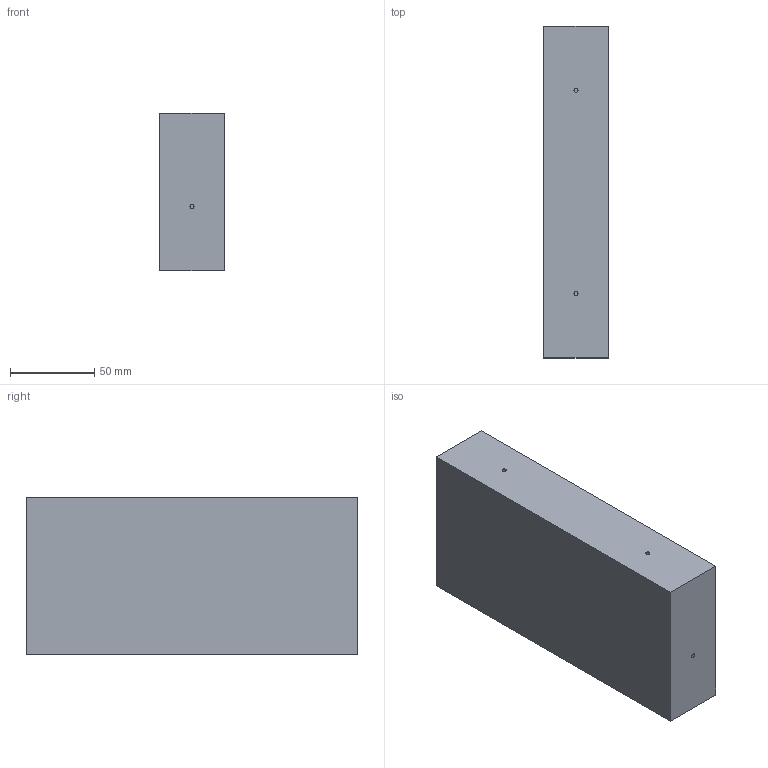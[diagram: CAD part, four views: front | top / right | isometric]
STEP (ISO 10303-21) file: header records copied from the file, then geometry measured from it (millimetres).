
FILE_DESCRIPTION(('FreeCAD Model'),'2;1');
FILE_NAME('/home/jwright/Documents/Mach_30/Shepard_v1.0_CAD/STEP_Files/Shepard_v1.0_Base_Front_TSBa03.step','2012-10-29T22:03:46',('FreeCAD'),( 'FreeCAD'),'Open CASCADE STEP processor 6.5','FreeCAD','Unknown');
FILE_SCHEMA(('AUTOMOTIVE_DESIGN_CC2 { 1 2 10303 214 -1 1 5 4 }'));
Length unit declared in the file: millimetre
Products named in the file (1): Cut
Bounding box: 38.1 x 196.85 x 93.66 mm (x, y, z)
Volume: 702014.9 mm3; surface area: 59789.9 mm2
Topology: 1 solids, 3 shells, 16 faces, 26 edges, 18 vertices
Faces by surface type: plane 12, cylinder 4
Full cylindrical faces by diameter (mm): 2.381 x4
Entity records: 835 total; most frequent: DIRECTION 122, CARTESIAN_POINT 113, LINE 58, VECTOR 58, ORIENTED_EDGE 52, PCURVE 52, DEFINITIONAL_REPRESENTATION 52, AXIS2_PLACEMENT_3D 27
